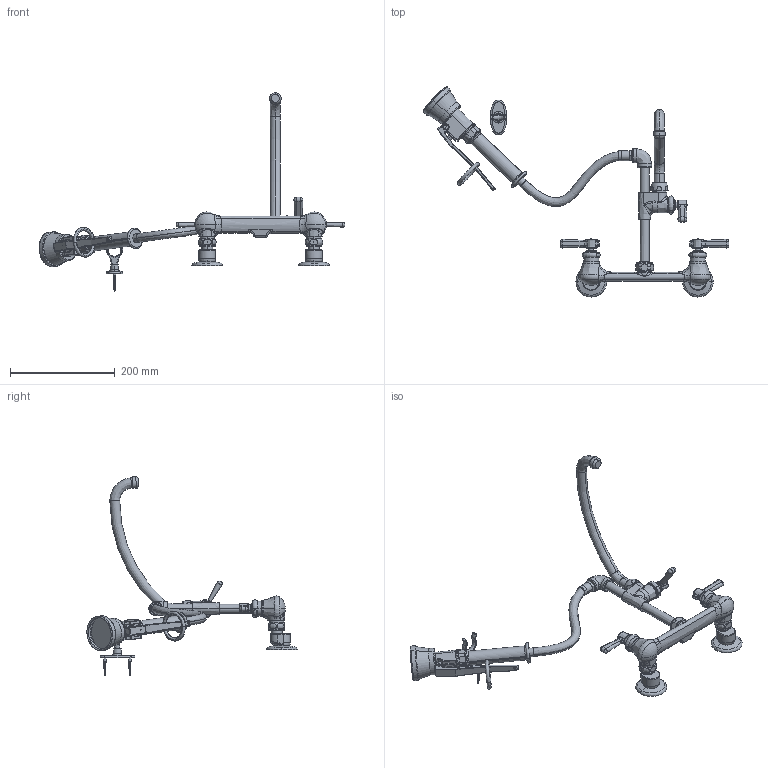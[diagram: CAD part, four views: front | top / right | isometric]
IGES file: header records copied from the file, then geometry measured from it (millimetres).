
Start section:  PTC IGES file: 509-GCTFCP_REV093011.igs
Global section: file name: 509-GCTFCP_REV093011.igs; native system: Pro/ENGINEER by Parametric Technology Corporation; preprocessor: 2010230; author: sdmitruk; organization: Unknown; date: 20110930.155736; units: inch
Bounding box: 585.17 x 401.96 x 380 mm (x, y, z)
Surface area: 202252.6 mm2 (no closed solid volume)
Topology: 0 solids, 0 shells, 1059 faces, 7580 edges, 10071 vertices
Faces by surface type: bspline 561, revolution 498
